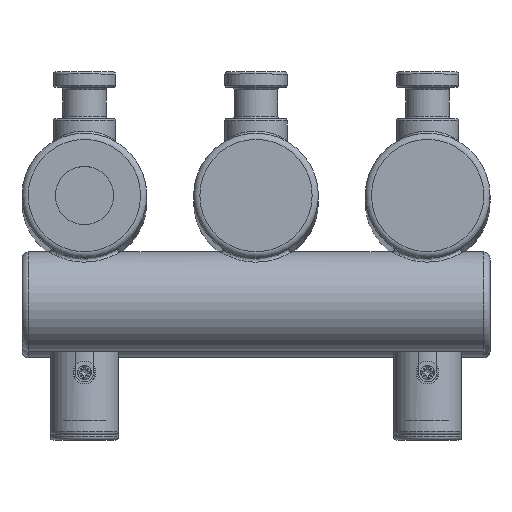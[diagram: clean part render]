
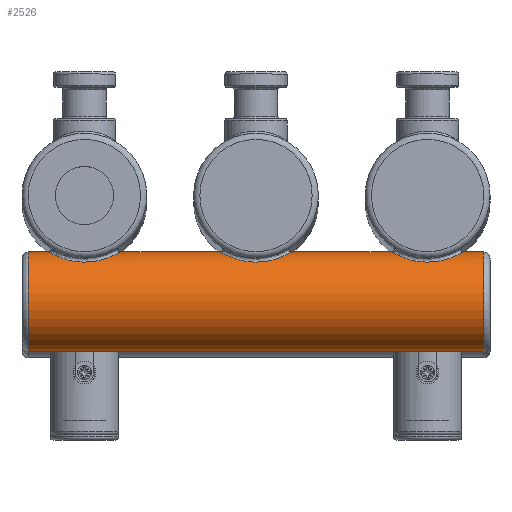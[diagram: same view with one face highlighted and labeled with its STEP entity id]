
A CAD part, top view. The second image highlights one B-rep face of the part: STEP entity #2526.
In plain terms, the highlighted cylindrical face has radius 16 mm (diameter 32 mm), a full revolution.
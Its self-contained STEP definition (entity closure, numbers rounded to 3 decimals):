
#191=FACE_BOUND('',#607,.T.);
#192=FACE_BOUND('',#608,.T.);
#193=FACE_BOUND('',#609,.T.);
#219=LINE('',#4969,#304);
#304=VECTOR('',#3160,16.);
#389=CYLINDRICAL_SURFACE('',#2743,16.);
#432=FACE_OUTER_BOUND('',#606,.T.);
#606=EDGE_LOOP('',(#1776,#1777,#1778,#1779));
#607=EDGE_LOOP('',(#1780));
#608=EDGE_LOOP('',(#1781));
#609=EDGE_LOOP('',(#1782));
#796=B_SPLINE_CURVE_WITH_KNOTS('',3,(#4946,#4947,#4948,#4949,#4950,#4951,
#4952,#4953,#4954,#4955,#4956,#4957,#4958,#4959,#4960,#4961,#4962,#4963,
#4964),.UNSPECIFIED.,.T.,.F.,(4,1,1,1,1,1,1,1,1,1,1,1,1,1,1,1,4),(0.,0.367,
0.733,1.1,1.466,1.711,1.955,
2.199,2.444,2.933,3.177,3.421,
3.666,3.91,4.399,4.765,5.132),
 .UNSPECIFIED.);
#797=B_SPLINE_CURVE_WITH_KNOTS('',3,(#4972,#4973,#4974,#4975,#4976,#4977,
#4978,#4979,#4980,#4981,#4982,#4983,#4984,#4985,#4986,#4987,#4988,#4989,
#4990,#4991,#4992),.UNSPECIFIED.,.T.,.F.,(4,1,1,1,1,1,1,1,1,1,1,1,1,1,1,
1,1,1,4),(0.,0.367,0.733,0.916,1.1,
1.466,1.711,1.955,2.199,2.444,
2.688,2.933,3.177,3.421,3.666,
3.91,4.399,4.765,5.132),
 .UNSPECIFIED.);
#798=B_SPLINE_CURVE_WITH_KNOTS('',3,(#4994,#4995,#4996,#4997,#4998,#4999,
#5000,#5001,#5002,#5003,#5004,#5005,#5006,#5007,#5008,#5009,#5010,#5011,
#5012,#5013,#5014),.UNSPECIFIED.,.T.,.F.,(4,1,1,1,1,1,1,1,1,1,1,1,1,1,1,
1,1,1,4),(0.,0.367,0.733,0.916,1.1,
1.466,1.711,1.955,2.199,2.444,
2.688,2.933,3.177,3.421,3.666,
3.91,4.399,4.765,5.132),
 .UNSPECIFIED.);
#853=CIRCLE('',#2744,16.);
#854=CIRCLE('',#2745,16.);
#1088=VERTEX_POINT('',#4944);
#1089=VERTEX_POINT('',#4966);
#1090=VERTEX_POINT('',#4968);
#1091=VERTEX_POINT('',#4971);
#1092=VERTEX_POINT('',#4993);
#1368=EDGE_CURVE('',#1088,#1088,#796,.T.);
#1369=EDGE_CURVE('',#1089,#1089,#853,.T.);
#1370=EDGE_CURVE('',#1089,#1090,#219,.T.);
#1371=EDGE_CURVE('',#1090,#1090,#854,.T.);
#1372=EDGE_CURVE('',#1091,#1091,#797,.T.);
#1373=EDGE_CURVE('',#1092,#1092,#798,.T.);
#1776=ORIENTED_EDGE('',*,*,#1369,.F.);
#1777=ORIENTED_EDGE('',*,*,#1370,.T.);
#1778=ORIENTED_EDGE('',*,*,#1371,.F.);
#1779=ORIENTED_EDGE('',*,*,#1370,.F.);
#1780=ORIENTED_EDGE('',*,*,#1372,.F.);
#1781=ORIENTED_EDGE('',*,*,#1373,.F.);
#1782=ORIENTED_EDGE('',*,*,#1368,.F.);
#2526=ADVANCED_FACE('',(#432,#191,#192,#193),#389,.T.);
#2743=AXIS2_PLACEMENT_3D('',#4965,#3156,#3157);
#2744=AXIS2_PLACEMENT_3D('',#4967,#3158,#3159);
#2745=AXIS2_PLACEMENT_3D('',#4970,#3161,#3162);
#3156=DIRECTION('center_axis',(-1.,0.,0.));
#3157=DIRECTION('ref_axis',(0.,0.,1.));
#3158=DIRECTION('center_axis',(-1.,0.,0.));
#3159=DIRECTION('ref_axis',(0.,0.,1.));
#3160=DIRECTION('',(1.,0.,0.));
#3161=DIRECTION('center_axis',(1.,0.,0.));
#3162=DIRECTION('ref_axis',(0.,0.,1.));
#4944=CARTESIAN_POINT('',(-110.,-21.257,1169.676));
#4946=CARTESIAN_POINT('Ctrl Pts',(-110.,-21.257,1169.676));
#4947=CARTESIAN_POINT('Ctrl Pts',(-108.333,-21.257,1169.676));
#4948=CARTESIAN_POINT('Ctrl Pts',(-104.996,-20.861,1169.183));
#4949=CARTESIAN_POINT('Ctrl Pts',(-100.824,-19.321,1166.735));
#4950=CARTESIAN_POINT('Ctrl Pts',(-98.535,-17.944,1162.489));
#4951=CARTESIAN_POINT('Ctrl Pts',(-98.541,-17.949,1158.065));
#4952=CARTESIAN_POINT('Ctrl Pts',(-100.014,-18.832,1154.661));
#4953=CARTESIAN_POINT('Ctrl Pts',(-102.203,-19.862,1152.415));
#4954=CARTESIAN_POINT('Ctrl Pts',(-105.073,-20.765,1150.975));
#4955=CARTESIAN_POINT('Ctrl Pts',(-109.399,-21.459,1150.075));
#4956=CARTESIAN_POINT('Ctrl Pts',(-113.971,-21.078,1150.504));
#4957=CARTESIAN_POINT('Ctrl Pts',(-117.798,-19.859,1152.414));
#4958=CARTESIAN_POINT('Ctrl Pts',(-119.989,-18.831,1154.665));
#4959=CARTESIAN_POINT('Ctrl Pts',(-121.247,-18.084,1157.578));
#4960=CARTESIAN_POINT('Ctrl Pts',(-121.602,-17.836,1161.907));
#4961=CARTESIAN_POINT('Ctrl Pts',(-119.645,-19.134,1166.468));
#4962=CARTESIAN_POINT('Ctrl Pts',(-114.999,-20.872,1169.179));
#4963=CARTESIAN_POINT('Ctrl Pts',(-111.667,-21.257,1169.676));
#4964=CARTESIAN_POINT('Ctrl Pts',(-110.,-21.257,1169.676));
#4965=CARTESIAN_POINT('Origin',(20.,-34.,1160.));
#4966=CARTESIAN_POINT('',(-128.,-34.,1144.));
#4967=CARTESIAN_POINT('Origin',(-128.,-34.,1160.));
#4968=CARTESIAN_POINT('',(18.,-34.,1144.));
#4969=CARTESIAN_POINT('',(20.,-34.,1144.));
#4970=CARTESIAN_POINT('Origin',(18.,-34.,1160.));
#4971=CARTESIAN_POINT('',(-55.,-21.257,1169.676));
#4972=CARTESIAN_POINT('Ctrl Pts',(-55.,-21.257,1169.676));
#4973=CARTESIAN_POINT('Ctrl Pts',(-53.333,-21.257,1169.676));
#4974=CARTESIAN_POINT('Ctrl Pts',(-49.992,-20.858,1169.186));
#4975=CARTESIAN_POINT('Ctrl Pts',(-46.526,-19.582,1167.138));
#4976=CARTESIAN_POINT('Ctrl Pts',(-44.675,-18.63,1164.615));
#4977=CARTESIAN_POINT('Ctrl Pts',(-43.539,-17.949,1161.659));
#4978=CARTESIAN_POINT('Ctrl Pts',(-43.538,-17.947,1158.067));
#4979=CARTESIAN_POINT('Ctrl Pts',(-45.013,-18.833,1154.662));
#4980=CARTESIAN_POINT('Ctrl Pts',(-47.203,-19.86,1152.415));
#4981=CARTESIAN_POINT('Ctrl Pts',(-50.072,-20.768,1150.978));
#4982=CARTESIAN_POINT('Ctrl Pts',(-53.318,-21.278,1150.296));
#4983=CARTESIAN_POINT('Ctrl Pts',(-56.682,-21.279,1150.296));
#4984=CARTESIAN_POINT('Ctrl Pts',(-59.929,-20.768,1150.978));
#4985=CARTESIAN_POINT('Ctrl Pts',(-62.797,-19.862,1152.416));
#4986=CARTESIAN_POINT('Ctrl Pts',(-64.989,-18.829,1154.664));
#4987=CARTESIAN_POINT('Ctrl Pts',(-66.247,-18.084,1157.578));
#4988=CARTESIAN_POINT('Ctrl Pts',(-66.602,-17.835,1161.907));
#4989=CARTESIAN_POINT('Ctrl Pts',(-64.645,-19.134,1166.468));
#4990=CARTESIAN_POINT('Ctrl Pts',(-59.999,-20.872,1169.179));
#4991=CARTESIAN_POINT('Ctrl Pts',(-56.667,-21.257,1169.676));
#4992=CARTESIAN_POINT('Ctrl Pts',(-55.,-21.257,1169.676));
#4993=CARTESIAN_POINT('',(0.,-21.257,1169.676));
#4994=CARTESIAN_POINT('Ctrl Pts',(0.,-21.257,
1169.676));
#4995=CARTESIAN_POINT('Ctrl Pts',(1.667,-21.257,1169.676));
#4996=CARTESIAN_POINT('Ctrl Pts',(5.008,-20.858,1169.186));
#4997=CARTESIAN_POINT('Ctrl Pts',(8.474,-19.582,1167.138));
#4998=CARTESIAN_POINT('Ctrl Pts',(10.325,-18.63,1164.615));
#4999=CARTESIAN_POINT('Ctrl Pts',(11.461,-17.949,1161.659));
#5000=CARTESIAN_POINT('Ctrl Pts',(11.462,-17.947,1158.066));
#5001=CARTESIAN_POINT('Ctrl Pts',(9.987,-18.833,1154.662));
#5002=CARTESIAN_POINT('Ctrl Pts',(7.797,-19.86,1152.415));
#5003=CARTESIAN_POINT('Ctrl Pts',(4.928,-20.768,1150.978));
#5004=CARTESIAN_POINT('Ctrl Pts',(1.682,-21.278,1150.296));
#5005=CARTESIAN_POINT('Ctrl Pts',(-1.682,-21.279,1150.296));
#5006=CARTESIAN_POINT('Ctrl Pts',(-4.929,-20.768,1150.978));
#5007=CARTESIAN_POINT('Ctrl Pts',(-7.797,-19.862,1152.415));
#5008=CARTESIAN_POINT('Ctrl Pts',(-9.989,-18.829,1154.664));
#5009=CARTESIAN_POINT('Ctrl Pts',(-11.247,-18.084,1157.578));
#5010=CARTESIAN_POINT('Ctrl Pts',(-11.602,-17.835,1161.907));
#5011=CARTESIAN_POINT('Ctrl Pts',(-9.645,-19.134,1166.468));
#5012=CARTESIAN_POINT('Ctrl Pts',(-4.999,-20.872,1169.179));
#5013=CARTESIAN_POINT('Ctrl Pts',(-1.667,-21.257,1169.676));
#5014=CARTESIAN_POINT('Ctrl Pts',(0.,-21.257,
1169.676));
